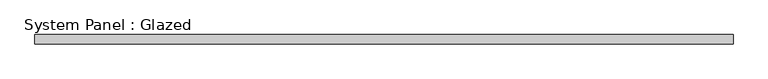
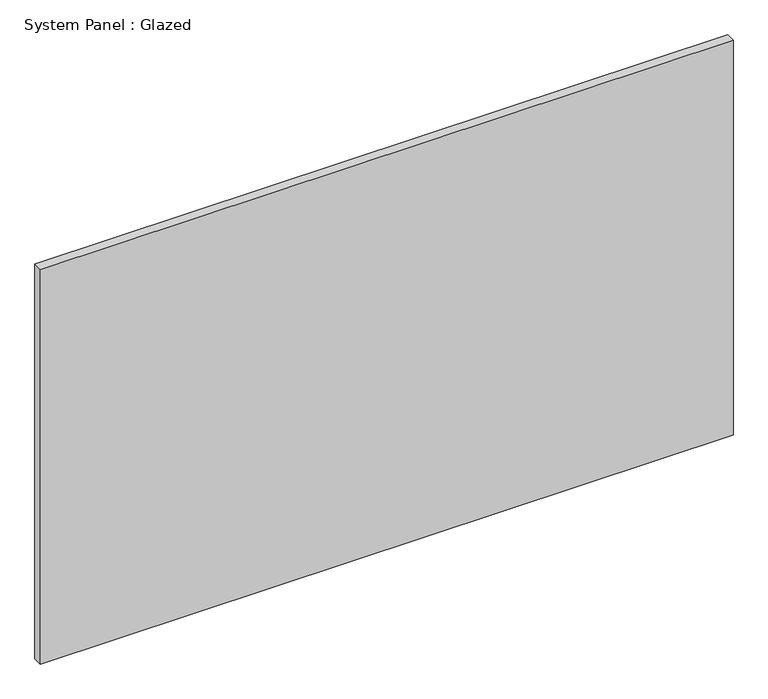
"""IFC4 building model written with IfcOpenShell, lengths in millimetres: plate geometry, System Panel : Glazed."""

import ifcopenshell
import ifcopenshell.guid

model = None  # the IFC model being written
_history = None  # IfcOwnerHistory: only IFC2X3 demands one
_inside = {}  # id of a spatial element -> (the spatial element, [elements in it])
_under = {}  # id of a project, library or spatial element -> (it, [spatial elements below it])
_declared = {}  # id of a project -> (the project, [libraries it declares])
_typed = {}  # id of a type object -> (the type object, [elements of that type])
_made_of = {}  # id of a material, layer set ... -> (it, [elements and type objects made of it])


def new_model(schema):
    """Start an empty IFC model of exactly this schema.

    Asked for "IFC4X3", IfcOpenShell would pick the latest addendum, in which some entities
    have other attributes; the version numbers below select the first issue.
    IFC2X3 requires an IfcOwnerHistory on every rooted entity: one is made here for all.
    """
    global model, _history
    if schema == "IFC4X3":
        model = ifcopenshell.file(schema_version=(4, 3, 0, 0))
    else:
        model = ifcopenshell.file(schema=schema)
    _inside.clear()
    _under.clear()
    _declared.clear()
    _typed.clear()
    _made_of.clear()
    _history = None
    if model.schema == "IFC2X3":
        org = make("IfcOrganization", Name="unknown")
        user = make(
            "IfcPersonAndOrganization",
            ThePerson=make("IfcPerson", FamilyName="unknown"),
            TheOrganization=org,
        )
        app = make(
            "IfcApplication",
            ApplicationDeveloper=org,
            Version="unknown",
            ApplicationFullName="unknown",
            ApplicationIdentifier="unknown",
        )
        _history = make(
            "IfcOwnerHistory",
            OwningUser=user,
            OwningApplication=app,
            ChangeAction="ADDED",
            CreationDate=0,
        )
    return model


def make(cls, **values):
    """One entity of the class cls with the attributes given. An attribute that is None is left unset."""
    return model.create_entity(
        cls, **{name: value for name, value in values.items() if value is not None}
    )


def rooted(cls, **values):
    """An entity with a GlobalId (a new one), such as an element, a storey or a relation."""
    return make(cls, GlobalId=ifcopenshell.guid.new(), OwnerHistory=_history, **values)


def si_unit(unit_type, name, prefix=None):
    """IfcSIUnit, for example si_unit("LENGTHUNIT", "METRE", prefix="MILLI")."""
    return make("IfcSIUnit", UnitType=unit_type, Prefix=prefix, Name=name)


def assignment(units):
    """IfcUnitAssignment: the units of a project."""
    return None if units is None else make("IfcUnitAssignment", Units=units)


def point(xyz):
    """IfcCartesianPoint."""
    return None if xyz is None else make("IfcCartesianPoint", Coordinates=xyz)


def direction(xyz):
    """IfcDirection."""
    return None if xyz is None else make("IfcDirection", DirectionRatios=xyz)


def frame(location, z_axis=None, x_axis=None):
    """IfcAxis2Placement3D, a coordinate frame: its origin and axes. An axis left out is left unset."""
    return make(
        "IfcAxis2Placement3D",
        Location=point(location),
        Axis=direction(z_axis),
        RefDirection=direction(x_axis),
    )


def origin():
    """The frame at (0, 0, 0) with its axes left unset."""
    return frame((0.0, 0.0, 0.0))


def origin_with_axes():
    """The frame at (0, 0, 0) with the z axis (0, 0, 1) and the x axis (1, 0, 0) written out."""
    return frame((0.0, 0.0, 0.0), z_axis=(0.0, 0.0, 1.0), x_axis=(1.0, 0.0, 0.0))


def place(relative_to, where):
    """IfcLocalPlacement: puts the frame where relative to a parent placement (None: the world)."""
    return make(
        "IfcLocalPlacement", PlacementRelTo=relative_to, RelativePlacement=where
    )


def context(
    kind, dimensions, precision=None, world=None, true_north=None, identifier=None
):
    """IfcGeometricRepresentationContext, for example the 3D "Model" context."""
    return make(
        "IfcGeometricRepresentationContext",
        ContextIdentifier=identifier,
        ContextType=kind,
        CoordinateSpaceDimension=dimensions,
        Precision=precision,
        WorldCoordinateSystem=world,
        TrueNorth=true_north,
    )


def project(units=None, contexts=None):
    """IfcProject with its units and contexts."""
    return rooted(
        "IfcProject",
        Name="project",
        RepresentationContexts=contexts,
        UnitsInContext=assignment(units),
    )


def spatial(cls, under=None, at=None, **own):
    """A site, building, storey or space (cls), placed at a placement, below another one or the project."""
    s = rooted(cls, ObjectPlacement=at, **own)
    if under is not None:
        _under.setdefault(under.id(), (under, []))[1].append(s)
    return s


def polyline(points):
    """IfcPolyline through the points."""
    return make("IfcPolyline", Points=[point(p) for p in points])


def outline(outer, holes=None, kind="AREA"):
    """IfcArbitraryClosedProfileDef: a profile drawn as a closed curve; with holes, ...WithVoids."""
    if holes is None:
        return make("IfcArbitraryClosedProfileDef", ProfileType=kind, OuterCurve=outer)
    return make(
        "IfcArbitraryProfileDefWithVoids",
        ProfileType=kind,
        OuterCurve=outer,
        InnerCurves=holes,
    )


def extrude(swept, where, along, depth):
    """IfcExtrudedAreaSolid: the profile swept, set in the frame where, extruded along a direction by depth."""
    return make(
        "IfcExtrudedAreaSolid",
        SweptArea=swept,
        Position=where,
        ExtrudedDirection=direction(along),
        Depth=depth,
    )


def shape(context_of_items, identifier, shape_type, items):
    """IfcShapeRepresentation: the items that make up one representation, for example the "Body"."""
    return make(
        "IfcShapeRepresentation",
        ContextOfItems=context_of_items,
        RepresentationIdentifier=identifier,
        RepresentationType=shape_type,
        Items=items,
    )


def source(mapping_origin, context_of_items, identifier, shape_type, items):
    """IfcRepresentationMap: a shape defined once, which mapped items show again and again."""
    return make(
        "IfcRepresentationMap",
        MappingOrigin=mapping_origin,
        MappedRepresentation=shape(context_of_items, identifier, shape_type, items),
    )


def transform(
    local_origin,
    x_axis=None,
    y_axis=None,
    z_axis=None,
    scale=None,
    scale2=None,
    scale3=None,
    uniform=True,
):
    """IfcCartesianTransformationOperator3D, or its non-uniform kind. x_axis, y_axis, z_axis: its Axis1, 2, 3."""
    if uniform:
        return make(
            "IfcCartesianTransformationOperator3D",
            Axis1=direction(x_axis),
            Axis2=direction(y_axis),
            LocalOrigin=point(local_origin),
            Scale=scale,
            Axis3=direction(z_axis),
        )
    return make(
        "IfcCartesianTransformationOperator3DnonUniform",
        Axis1=direction(x_axis),
        Axis2=direction(y_axis),
        LocalOrigin=point(local_origin),
        Scale=scale,
        Axis3=direction(z_axis),
        Scale2=scale2,
        Scale3=scale3,
    )


def mapped(mapping_source, mapping_target):
    """IfcMappedItem: shows the shape of a source again, moved by a transform."""
    return make(
        "IfcMappedItem", MappingSource=mapping_source, MappingTarget=mapping_target
    )


def made_of(thing, what):
    """Note that an element or type object is made of a material, layer set ...; save() writes the relation."""
    if what is not None:
        _made_of.setdefault(what.id(), (what, []))[1].append(thing)
    return thing


def element(
    cls,
    number,
    at=None,
    inside=None,
    cuts=None,
    type_object=None,
    material=None,
    context=None,
    identifier="Body",
    shape_type=None,
    held_by="IfcProductDefinitionShape",
    body=None,
    shapes=None,
    **own,
):
    """One element of the class cls, such as IfcWall. Its Tag is "e" and its number.

    at: its placement. inside: the storey or other place that contains it. cuts: it is an
    opening in that element (IfcRelVoidsElement). A single representation is given by context,
    identifier, shape_type and body (its items); several are given by shapes. held_by: the class
    of the entity that holds the representations. save() writes the other relations.
    """
    e = rooted(cls, Tag="e%d" % number, ObjectPlacement=at, **own)
    if body is not None:
        shapes = [shape(context, identifier, shape_type, body)]
    if shapes is not None:
        e.Representation = make(held_by, Representations=shapes)
    if inside is not None:
        _inside.setdefault(inside.id(), (inside, []))[1].append(e)
    if cuts is not None:
        rooted(
            "IfcRelVoidsElement", RelatingBuildingElement=cuts, RelatedOpeningElement=e
        )
    if type_object is not None:
        _typed.setdefault(type_object.id(), (type_object, []))[1].append(e)
    return made_of(e, material)


def aggregate(whole, parts):
    """IfcRelAggregates: a whole, such as a stair, and the parts it consists of."""
    return rooted("IfcRelAggregates", RelatingObject=whole, RelatedObjects=parts)


def save(model, path):
    """Write the relations noted so far, then the file.

    IfcRelAggregates (storeys below a building ...), IfcRelContainedInSpatialStructure (elements
    in a storey), IfcRelDefinesByType, IfcRelAssociatesMaterial and IfcRelDeclares: one each for
    every whole, place, type object, material and project.
    """
    for whole, parts in _under.values():
        aggregate(whole, parts)
    for where, things in _inside.values():
        rooted(
            "IfcRelContainedInSpatialStructure",
            RelatedElements=things,
            RelatingStructure=where,
        )
    for kind, things in _typed.values():
        rooted("IfcRelDefinesByType", RelatedObjects=things, RelatingType=kind)
    for what, things in _made_of.values():
        rooted("IfcRelAssociatesMaterial", RelatedObjects=things, RelatingMaterial=what)
    for by, libraries in _declared.values():
        rooted("IfcRelDeclares", RelatingContext=by, RelatedDefinitions=libraries)
    model.write(path)


def system_panel_glazed_f5a86650(model_context):
    return source(origin(), model_context, "Body", "SweptSolid", [
        extrude(outline(polyline([(958.85, -44.45), (-958.85, -44.45), (-958.85, -19.05), (958.85, -19.05), (958.85, -44.45)])), origin_with_axes(), (0.0, 0.0, 1.0), 1155.7),
    ])


if __name__ == "__main__":
    model = new_model("IFC4")
    model_context = context("Model", 3, world=origin())
    ifc_project = project(units=[si_unit("LENGTHUNIT", "METRE", prefix="MILLI")], contexts=[model_context])
    site = spatial("IfcSite", under=ifc_project)
    building = spatial("IfcBuilding", under=site)
    placement = place(None, origin())
    system_panel_glazed_shape = system_panel_glazed_f5a86650(model_context)
    element("IfcPlate", 1, ObjectType="System Panel : Glazed", at=placement, inside=building, context=model_context, shape_type="MappedRepresentation", body=[
        mapped(system_panel_glazed_shape, transform((0.0, 0.0, 0.0), x_axis=(1.0, 0.0, 0.0), y_axis=(0.0, 1.0, 0.0), z_axis=(0.0, 0.0, 1.0))),
    ])
    save(model, "model.ifc")
